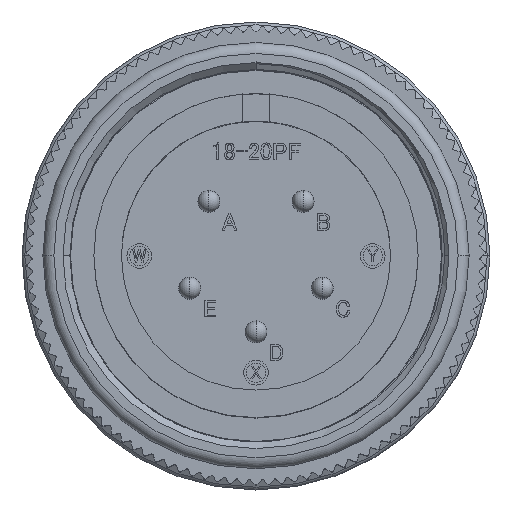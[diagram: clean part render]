
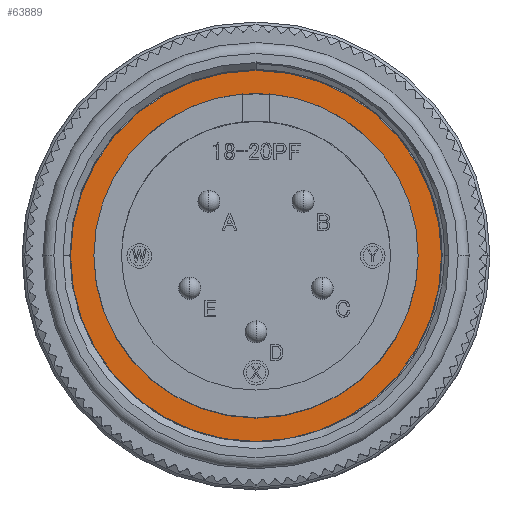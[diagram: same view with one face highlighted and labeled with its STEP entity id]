
A CAD part, top view. The second image highlights one B-rep face of the part: STEP entity #63889.
In plain terms, the highlighted planar face has unit normal (0, 0, 1).
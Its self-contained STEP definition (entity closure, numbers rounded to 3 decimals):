
#1011 = EDGE_CURVE ( 'NONE', #76888, #14985, #55467, .T. ) ;
#3381 = DIRECTION ( 'NONE',  ( 0., 0., 1. ) ) ;
#5528 = FACE_BOUND ( 'NONE', #88410, .T. ) ;
#7192 = AXIS2_PLACEMENT_3D ( 'NONE', #48509, #106750, #56859 ) ;
#9621 = ORIENTED_EDGE ( 'NONE', *, *, #30701, .F. ) ;
#11342 = EDGE_CURVE ( 'NONE', #14985, #76888, #67073, .T. ) ;
#14985 = VERTEX_POINT ( 'NONE', #31541 ) ;
#18543 = AXIS2_PLACEMENT_3D ( 'NONE', #23464, #81714, #31836 ) ;
#20202 = CARTESIAN_POINT ( 'NONE',  ( 0., 11.81, -18.25 ) ) ;
#23464 = CARTESIAN_POINT ( 'NONE',  ( 0., 0., -18.25 ) ) ;
#25091 = FACE_OUTER_BOUND ( 'NONE', #108033, .T. ) ;
#30701 = EDGE_CURVE ( 'NONE', #42147, #42253, #35826, .T. ) ;
#31541 = CARTESIAN_POINT ( 'NONE',  ( -13.51, 0., -18.25 ) ) ;
#31836 = DIRECTION ( 'NONE',  ( 1., 0., 0. ) ) ;
#35826 = CIRCLE ( 'NONE', #7192, 11.81 ) ;
#37257 = PLANE ( 'NONE',  #71346 ) ;
#40110 = CARTESIAN_POINT ( 'NONE',  ( 0., 0., -18.25 ) ) ;
#42147 = VERTEX_POINT ( 'NONE', #66599 ) ;
#42253 = VERTEX_POINT ( 'NONE', #68001 ) ;
#45668 = DIRECTION ( 'NONE',  ( -1., 0., 0. ) ) ;
#47273 = EDGE_CURVE ( 'NONE', #42253, #42147, #107439, .T. ) ;
#48509 = CARTESIAN_POINT ( 'NONE',  ( 0., 0., -18.25 ) ) ;
#48549 = DIRECTION ( 'NONE',  ( 1., 0., 0. ) ) ;
#51692 = ORIENTED_EDGE ( 'NONE', *, *, #11342, .T. ) ;
#53311 = CARTESIAN_POINT ( 'NONE',  ( 0., 0., -18.25 ) ) ;
#55467 = CIRCLE ( 'NONE', #67939, 13.51 ) ;
#56859 = DIRECTION ( 'NONE',  ( 1., 0., 0. ) ) ;
#61651 = DIRECTION ( 'NONE',  ( 1., 0., 0. ) ) ;
#63889 = ADVANCED_FACE ( 'NONE', ( #5528, #25091 ), #37257, .F. ) ;
#66599 = CARTESIAN_POINT ( 'NONE',  ( -11.81, 0., -18.25 ) ) ;
#67073 = CIRCLE ( 'NONE', #18543, 13.51 ) ;
#67939 = AXIS2_PLACEMENT_3D ( 'NONE', #40110, #98413, #48549 ) ;
#68001 = CARTESIAN_POINT ( 'NONE',  ( 11.81, 0., -18.25 ) ) ;
#71346 = AXIS2_PLACEMENT_3D ( 'NONE', #20202, #95589, #45668 ) ;
#71381 = CARTESIAN_POINT ( 'NONE',  ( 13.51, 0., -18.25 ) ) ;
#76888 = VERTEX_POINT ( 'NONE', #71381 ) ;
#81714 = DIRECTION ( 'NONE',  ( 0., 0., 1. ) ) ;
#81806 = ORIENTED_EDGE ( 'NONE', *, *, #1011, .T. ) ;
#88410 = EDGE_LOOP ( 'NONE', ( #105647, #9621 ) ) ;
#88477 = AXIS2_PLACEMENT_3D ( 'NONE', #53311, #3381, #61651 ) ;
#95589 = DIRECTION ( 'NONE',  ( 0., 0., -1. ) ) ;
#98413 = DIRECTION ( 'NONE',  ( 0., 0., 1. ) ) ;
#105647 = ORIENTED_EDGE ( 'NONE', *, *, #47273, .F. ) ;
#106750 = DIRECTION ( 'NONE',  ( 0., 0., 1. ) ) ;
#107439 = CIRCLE ( 'NONE', #88477, 11.81 ) ;
#108033 = EDGE_LOOP ( 'NONE', ( #81806, #51692 ) ) ;
